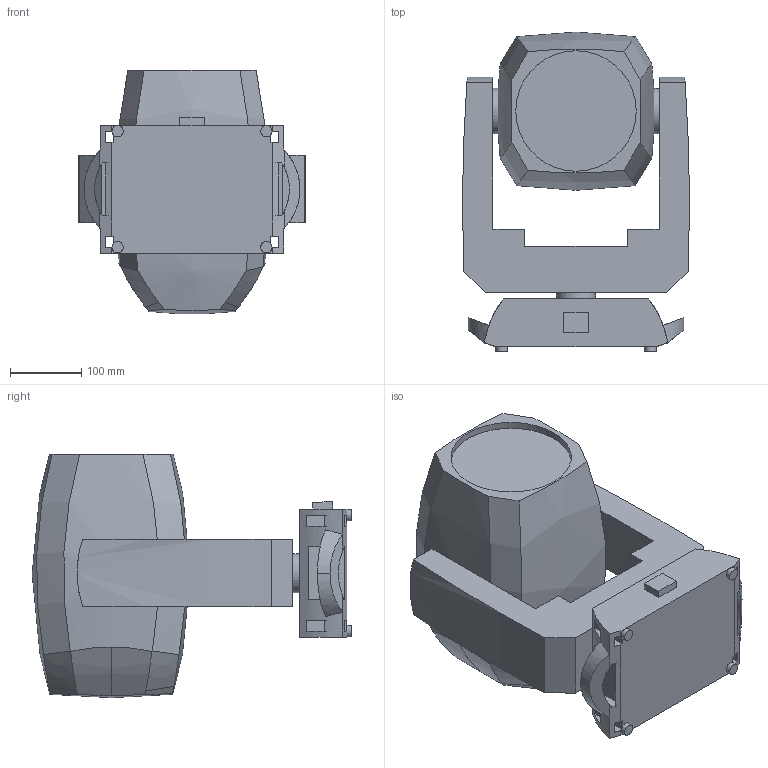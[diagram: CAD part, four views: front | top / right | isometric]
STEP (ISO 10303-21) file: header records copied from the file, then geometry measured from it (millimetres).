
FILE_DESCRIPTION(/* description */ (''),/* implementation_level */ '2;1');
FILE_NAME(/* name */ 'C:\Users\dgooch\Documents\!!CADENG\PRO\ROGUE Outcast 1L Beam\CAD Blocks\Rogue Outcast 1LBeam_90.stp',/* time_stamp */ '2022-06-07T15:45:30-04:00',/* author */ ('dgooch'),/* organization */ (''),/* preprocessor_version */ 'ST-DEVELOPER v19',/* originating_system */ 'Autodesk Inventor 2023',/* authorisation */ '');
FILE_SCHEMA (('AUTOMOTIVE_DESIGN { 1 0 10303 214 3 1 1 }'));
Length unit declared in the file: millimetre
Products named in the file (4): Rogue Outcast 1LBeam; Base; Arm; Head
Assembly tree (3 placements, depth 2):
  Rogue Outcast 1LBeam
    Base
    Arm
    Head
Bounding box: 318.98 x 449.1 x 341.95 mm (x, y, z)
Volume: 19687578.6 mm3; surface area: 720124.3 mm2
Topology: 3 solids, 3 shells, 116 faces, 318 edges, 208 vertices
Faces by surface type: plane 69, cylinder 25, bspline 12, sphere 6, cone 4
Full cylindrical faces by diameter (mm): 16 x4, 55 x2, 64 x4, 169.189 x1
Entity records: 5532 total; most frequent: CARTESIAN_POINT 2466, ORIENTED_EDGE 636, DIRECTION 571, EDGE_CURVE 318, VERTEX_POINT 208, AXIS2_PLACEMENT_3D 200, LINE 171, VECTOR 171
